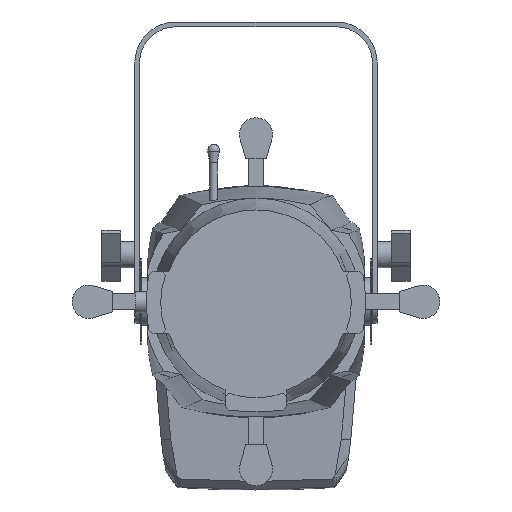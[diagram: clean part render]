
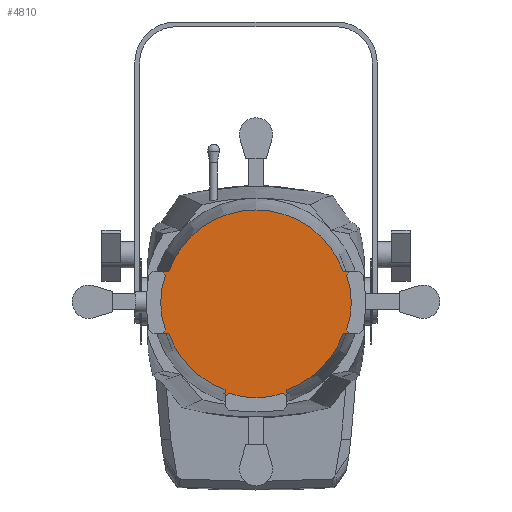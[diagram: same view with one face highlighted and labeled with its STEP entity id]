
A CAD part, front view. The second image highlights one B-rep face of the part: STEP entity #4810.
In plain terms, the highlighted planar face has unit normal (0, -1, -0.002).
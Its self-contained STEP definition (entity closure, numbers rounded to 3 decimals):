
#583=PLANE('',#5118);
#622=CIRCLE('',#4921,96.978);
#624=CIRCLE('',#4923,96.978);
#626=CIRCLE('',#4925,96.978);
#629=CIRCLE('',#4930,83.478);
#631=CIRCLE('',#4935,83.478);
#635=CIRCLE('',#4951,83.478);
#2037=ORIENTED_EDGE('',*,*,#2201,.F.);
#2038=ORIENTED_EDGE('',*,*,#2245,.T.);
#2039=ORIENTED_EDGE('',*,*,#2222,.T.);
#2040=ORIENTED_EDGE('',*,*,#2226,.T.);
#2041=ORIENTED_EDGE('',*,*,#2229,.T.);
#2042=ORIENTED_EDGE('',*,*,#2233,.T.);
#2043=ORIENTED_EDGE('',*,*,#2209,.F.);
#2044=ORIENTED_EDGE('',*,*,#2794,.F.);
#2045=ORIENTED_EDGE('',*,*,#2213,.F.);
#2046=ORIENTED_EDGE('',*,*,#2217,.F.);
#2047=ORIENTED_EDGE('',*,*,#2220,.F.);
#2048=ORIENTED_EDGE('',*,*,#2795,.F.);
#2049=ORIENTED_EDGE('',*,*,#2205,.F.);
#2050=ORIENTED_EDGE('',*,*,#2253,.T.);
#2051=ORIENTED_EDGE('',*,*,#2256,.T.);
#2052=ORIENTED_EDGE('',*,*,#2259,.T.);
#2053=ORIENTED_EDGE('',*,*,#2262,.T.);
#2054=ORIENTED_EDGE('',*,*,#2266,.T.);
#2201=EDGE_CURVE('',#2882,#2883,#622,.T.);
#2205=EDGE_CURVE('',#2886,#2887,#624,.T.);
#2209=EDGE_CURVE('',#2890,#2880,#626,.T.);
#2213=EDGE_CURVE('',#2894,#2895,#3363,.T.);
#2217=EDGE_CURVE('',#2898,#2894,#629,.T.);
#2220=EDGE_CURVE('',#2900,#2898,#3368,.T.);
#2222=EDGE_CURVE('',#2901,#2902,#3370,.T.);
#2226=EDGE_CURVE('',#2902,#2905,#631,.T.);
#2229=EDGE_CURVE('',#2905,#2907,#3375,.T.);
#2233=EDGE_CURVE('',#2907,#2880,#3379,.T.);
#2245=EDGE_CURVE('',#2882,#2901,#3389,.T.);
#2253=EDGE_CURVE('',#2886,#2922,#3397,.T.);
#2256=EDGE_CURVE('',#2922,#2923,#3400,.T.);
#2259=EDGE_CURVE('',#2923,#2925,#635,.T.);
#2262=EDGE_CURVE('',#2925,#2927,#3404,.T.);
#2266=EDGE_CURVE('',#2927,#2883,#3408,.T.);
#2794=EDGE_CURVE('',#2895,#2890,#3567,.T.);
#2795=EDGE_CURVE('',#2887,#2900,#3568,.T.);
#2880=VERTEX_POINT('',#6206);
#2882=VERTEX_POINT('',#6213);
#2883=VERTEX_POINT('',#6215);
#2886=VERTEX_POINT('',#6227);
#2887=VERTEX_POINT('',#6229);
#2890=VERTEX_POINT('',#6241);
#2894=VERTEX_POINT('',#6250);
#2895=VERTEX_POINT('',#6252);
#2898=VERTEX_POINT('',#6259);
#2900=VERTEX_POINT('',#6265);
#2901=VERTEX_POINT('',#6270);
#2902=VERTEX_POINT('',#6271);
#2905=VERTEX_POINT('',#6279);
#2907=VERTEX_POINT('',#6285);
#2922=VERTEX_POINT('',#6332);
#2923=VERTEX_POINT('',#6338);
#2925=VERTEX_POINT('',#6344);
#2927=VERTEX_POINT('',#6350);
#3363=LINE('',#6251,#3646);
#3368=LINE('',#6266,#3651);
#3370=LINE('',#6269,#3653);
#3375=LINE('',#6284,#3658);
#3379=LINE('',#6292,#3662);
#3389=LINE('',#6315,#3672);
#3397=LINE('',#6333,#3680);
#3400=LINE('',#6337,#3683);
#3404=LINE('',#6349,#3687);
#3408=LINE('',#6357,#3691);
#3567=LINE('',#11402,#3850);
#3568=LINE('',#11403,#3851);
#3646=VECTOR('',#5361,1000.);
#3651=VECTOR('',#5374,1000.);
#3653=VECTOR('',#5378,1000.);
#3658=VECTOR('',#5391,1000.);
#3662=VECTOR('',#5397,1000.);
#3672=VECTOR('',#5419,1000.);
#3680=VECTOR('',#5435,1000.);
#3683=VECTOR('',#5440,1000.);
#3687=VECTOR('',#5452,1000.);
#3691=VECTOR('',#5458,1000.);
#3850=VECTOR('',#5945,1000.);
#3851=VECTOR('',#5946,1000.);
#4167=EDGE_LOOP('',(#2037,#2038,#2039,#2040,#2041,#2042,#2043,#2044,#2045,
#2046,#2047,#2048,#2049,#2050,#2051,#2052,#2053,#2054));
#4491=FACE_BOUND('',#4167,.T.);
#4810=ADVANCED_FACE('',(#4491),#583,.F.);
#4921=AXIS2_PLACEMENT_3D('',#6214,#5344,#5345);
#4923=AXIS2_PLACEMENT_3D('',#6228,#5348,#5349);
#4925=AXIS2_PLACEMENT_3D('',#6242,#5352,#5353);
#4930=AXIS2_PLACEMENT_3D('',#6260,#5367,#5368);
#4935=AXIS2_PLACEMENT_3D('',#6278,#5384,#5385);
#4951=AXIS2_PLACEMENT_3D('',#6343,#5445,#5446);
#5118=AXIS2_PLACEMENT_3D('',#11401,#5943,#5944);
#5344=DIRECTION('',(0.,1.,0.));
#5345=DIRECTION('',(0.,0.,1.));
#5348=DIRECTION('',(0.,1.,0.));
#5349=DIRECTION('',(0.,0.,1.));
#5352=DIRECTION('',(0.,1.,0.));
#5353=DIRECTION('',(0.,0.,1.));
#5361=DIRECTION('',(-0.641,0.,0.768));
#5367=DIRECTION('',(0.,1.,0.));
#5368=DIRECTION('',(0.,0.,1.));
#5374=DIRECTION('',(0.641,0.,0.768));
#5378=DIRECTION('',(-0.768,0.,-0.641));
#5384=DIRECTION('',(0.,-1.,0.));
#5385=DIRECTION('',(0.,0.,-1.));
#5391=DIRECTION('',(-0.768,0.,0.641));
#5397=DIRECTION('',(0.,0.,-1.));
#5419=DIRECTION('',(0.,0.,1.));
#5435=DIRECTION('',(1.,0.,0.));
#5440=DIRECTION('',(-0.641,0.,0.768));
#5445=DIRECTION('',(0.,-1.,0.));
#5446=DIRECTION('',(0.,0.,-1.));
#5452=DIRECTION('',(0.641,0.,0.768));
#5458=DIRECTION('',(-1.,0.,0.));
#5943=DIRECTION('',(0.,1.,0.));
#5944=DIRECTION('',(0.,0.,1.));
#5945=DIRECTION('',(1.,0.,0.));
#5946=DIRECTION('',(-1.,0.,0.));
#6206=CARTESIAN_POINT('',(-32.475,-491.31,91.378));
#6213=CARTESIAN_POINT('',(32.475,-491.31,91.378));
#6214=CARTESIAN_POINT('',(0.,-491.31,0.));
#6215=CARTESIAN_POINT('',(91.378,-491.31,32.475));
#6227=CARTESIAN_POINT('',(91.378,-491.31,-32.475));
#6228=CARTESIAN_POINT('',(0.,-491.31,0.));
#6229=CARTESIAN_POINT('',(-91.378,-491.31,-32.475));
#6241=CARTESIAN_POINT('',(-91.378,-491.31,32.475));
#6242=CARTESIAN_POINT('',(0.,-491.31,0.));
#6250=CARTESIAN_POINT('',(-94.912,-491.31,28.553));
#6251=CARTESIAN_POINT('',(-98.185,-491.31,32.475));
#6252=CARTESIAN_POINT('',(-98.185,-491.31,32.475));
#6259=CARTESIAN_POINT('',(-94.912,-491.31,-28.553));
#6260=CARTESIAN_POINT('',(-16.468,-491.31,0.));
#6265=CARTESIAN_POINT('',(-98.185,-491.31,-32.475));
#6266=CARTESIAN_POINT('',(-98.185,-491.31,-32.475));
#6269=CARTESIAN_POINT('',(32.475,-491.31,98.185));
#6270=CARTESIAN_POINT('',(32.475,-491.31,98.185));
#6271=CARTESIAN_POINT('',(28.553,-491.31,94.912));
#6278=CARTESIAN_POINT('',(0.,-491.31,16.468));
#6279=CARTESIAN_POINT('',(-28.553,-491.31,94.912));
#6284=CARTESIAN_POINT('',(-32.475,-491.31,98.185));
#6285=CARTESIAN_POINT('',(-32.475,-491.31,98.185));
#6292=CARTESIAN_POINT('',(-32.475,-491.31,103.066));
#6315=CARTESIAN_POINT('',(32.475,-491.31,62.986));
#6332=CARTESIAN_POINT('',(98.185,-491.31,-32.475));
#6333=CARTESIAN_POINT('',(62.986,-491.31,-32.475));
#6337=CARTESIAN_POINT('',(98.185,-491.31,-32.475));
#6338=CARTESIAN_POINT('',(94.912,-491.31,-28.553));
#6343=CARTESIAN_POINT('',(16.468,-491.31,0.));
#6344=CARTESIAN_POINT('',(94.912,-491.31,28.553));
#6349=CARTESIAN_POINT('',(98.185,-491.31,32.475));
#6350=CARTESIAN_POINT('',(98.185,-491.31,32.475));
#6357=CARTESIAN_POINT('',(103.066,-491.31,32.475));
#11401=CARTESIAN_POINT('',(0.,-491.31,0.));
#11402=CARTESIAN_POINT('',(-103.066,-491.31,32.475));
#11403=CARTESIAN_POINT('',(-62.986,-491.31,-32.475));
